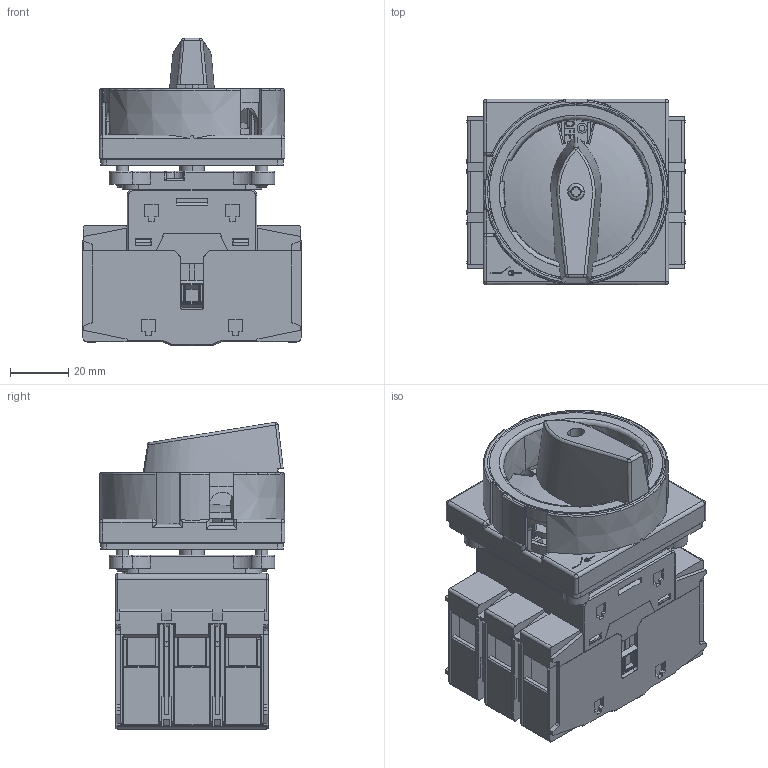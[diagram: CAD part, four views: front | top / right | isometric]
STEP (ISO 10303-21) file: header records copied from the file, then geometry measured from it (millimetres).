
FILE_DESCRIPTION (( 'STEP AP203' ), '1' );
FILE_NAME ('NF2-80PM.STEP', '2024-03-01T05:20:33', ( 'wzjh' ), ( '' ), 'SwSTEP 2.0', 'SolidWorks 2023', '' );
FILE_SCHEMA (( 'CONFIG_CONTROL_DESIGN' ));
Products named in the file (1): NF2-80PM
Bounding box: 75.5 x 64 x 105.96 mm (x, y, z)
Volume: 223628.1 mm3; surface area: 122390 mm2
Topology: 4 solids, 12 shells, 3937 faces, 11119 edges, 7225 vertices
Faces by surface type: plane 2530, cylinder 923, cone 211, torus 122, bspline 117, sphere 34
Entity records: 138649 total; most frequent: CARTESIAN_POINT 36457, ORIENTED_EDGE 22178, DIRECTION 20395, EDGE_CURVE 11089, LINE 7707, VECTOR 7707, VERTEX_POINT 7221, AXIS2_PLACEMENT_3D 6344
